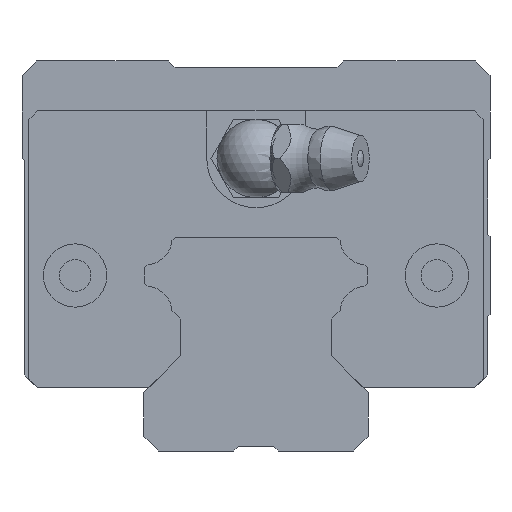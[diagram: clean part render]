
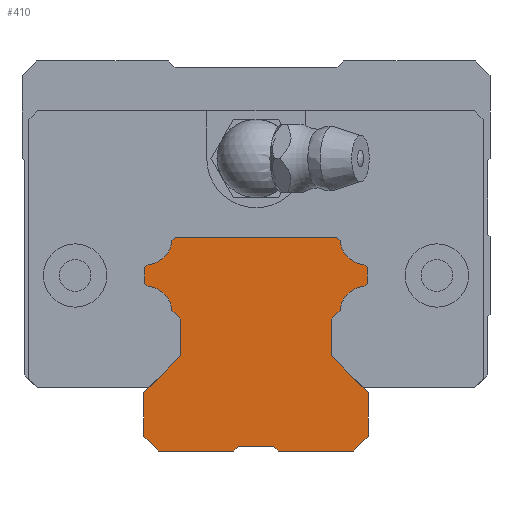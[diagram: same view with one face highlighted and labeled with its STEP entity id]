
A CAD part, front view. The second image highlights one B-rep face of the part: STEP entity #410.
In plain terms, the highlighted planar face has unit normal (0, -1, 0).
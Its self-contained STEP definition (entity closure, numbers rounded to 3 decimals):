
#273=CIRCLE('',#3328,2.65);
#275=CIRCLE('',#3334,2.65);
#286=CIRCLE('',#3363,2.65);
#288=CIRCLE('',#3369,2.65);
#410=ADVANCED_FACE('',(#719),#571,.T.);
#571=PLANE('',#3377);
#719=FACE_OUTER_BOUND('',#886,.T.);
#886=EDGE_LOOP('',(#1352,#1353,#1354,#1355,#1356,#1357,#1358,#1359,#1360,
#1361,#1362,#1363,#1364,#1365,#1366,#1367,#1368,#1369,#1370,#1371,#1372,
#1373,#1374,#1375,#1376,#1377,#1378,#1379));
#1352=ORIENTED_EDGE('',*,*,#2309,.F.);
#1353=ORIENTED_EDGE('',*,*,#2400,.F.);
#1354=ORIENTED_EDGE('',*,*,#2393,.T.);
#1355=ORIENTED_EDGE('',*,*,#2390,.F.);
#1356=ORIENTED_EDGE('',*,*,#2387,.T.);
#1357=ORIENTED_EDGE('',*,*,#2384,.T.);
#1358=ORIENTED_EDGE('',*,*,#2381,.F.);
#1359=ORIENTED_EDGE('',*,*,#2378,.F.);
#1360=ORIENTED_EDGE('',*,*,#2375,.F.);
#1361=ORIENTED_EDGE('',*,*,#2372,.F.);
#1362=ORIENTED_EDGE('',*,*,#2369,.F.);
#1363=ORIENTED_EDGE('',*,*,#2366,.T.);
#1364=ORIENTED_EDGE('',*,*,#2363,.T.);
#1365=ORIENTED_EDGE('',*,*,#2359,.F.);
#1366=ORIENTED_EDGE('',*,*,#2306,.T.);
#1367=ORIENTED_EDGE('',*,*,#2351,.T.);
#1368=ORIENTED_EDGE('',*,*,#2299,.F.);
#1369=ORIENTED_EDGE('',*,*,#2344,.T.);
#1370=ORIENTED_EDGE('',*,*,#2339,.F.);
#1371=ORIENTED_EDGE('',*,*,#2336,.F.);
#1372=ORIENTED_EDGE('',*,*,#2333,.T.);
#1373=ORIENTED_EDGE('',*,*,#2330,.T.);
#1374=ORIENTED_EDGE('',*,*,#2327,.T.);
#1375=ORIENTED_EDGE('',*,*,#2324,.F.);
#1376=ORIENTED_EDGE('',*,*,#2321,.T.);
#1377=ORIENTED_EDGE('',*,*,#2318,.F.);
#1378=ORIENTED_EDGE('',*,*,#2315,.F.);
#1379=ORIENTED_EDGE('',*,*,#2312,.F.);
#1970=VERTEX_POINT('',#4794);
#1971=VERTEX_POINT('',#4796);
#1972=VERTEX_POINT('',#4803);
#1975=VERTEX_POINT('',#4808);
#1978=VERTEX_POINT('',#4815);
#1979=VERTEX_POINT('',#4817);
#1981=VERTEX_POINT('',#4823);
#1983=VERTEX_POINT('',#4829);
#1985=VERTEX_POINT('',#4835);
#1987=VERTEX_POINT('',#4841);
#1989=VERTEX_POINT('',#4847);
#1991=VERTEX_POINT('',#4853);
#1993=VERTEX_POINT('',#4859);
#1995=VERTEX_POINT('',#4865);
#1997=VERTEX_POINT('',#4871);
#1999=VERTEX_POINT('',#4877);
#2004=VERTEX_POINT('',#4907);
#2007=VERTEX_POINT('',#4915);
#2009=VERTEX_POINT('',#4921);
#2011=VERTEX_POINT('',#4927);
#2013=VERTEX_POINT('',#4933);
#2015=VERTEX_POINT('',#4939);
#2017=VERTEX_POINT('',#4945);
#2019=VERTEX_POINT('',#4951);
#2021=VERTEX_POINT('',#4957);
#2023=VERTEX_POINT('',#4963);
#2025=VERTEX_POINT('',#4969);
#2027=VERTEX_POINT('',#4975);
#2299=EDGE_CURVE('',#1970,#1971,#2677,.T.);
#2306=EDGE_CURVE('',#1972,#1975,#2681,.T.);
#2309=EDGE_CURVE('',#1978,#1979,#2684,.T.);
#2312=EDGE_CURVE('',#1979,#1981,#273,.T.);
#2315=EDGE_CURVE('',#1981,#1983,#2688,.T.);
#2318=EDGE_CURVE('',#1983,#1985,#2691,.T.);
#2321=EDGE_CURVE('',#1987,#1985,#2694,.T.);
#2324=EDGE_CURVE('',#1987,#1989,#275,.T.);
#2327=EDGE_CURVE('',#1991,#1989,#2698,.T.);
#2330=EDGE_CURVE('',#1993,#1991,#2701,.T.);
#2333=EDGE_CURVE('',#1995,#1993,#2704,.T.);
#2336=EDGE_CURVE('',#1995,#1997,#2707,.T.);
#2339=EDGE_CURVE('',#1997,#1999,#2710,.T.);
#2344=EDGE_CURVE('',#1970,#1999,#2714,.T.);
#2351=EDGE_CURVE('',#1975,#1971,#2716,.T.);
#2359=EDGE_CURVE('',#1972,#2004,#2719,.T.);
#2363=EDGE_CURVE('',#2007,#2004,#2723,.T.);
#2366=EDGE_CURVE('',#2009,#2007,#2726,.T.);
#2369=EDGE_CURVE('',#2009,#2011,#2729,.T.);
#2372=EDGE_CURVE('',#2011,#2013,#2732,.T.);
#2375=EDGE_CURVE('',#2013,#2015,#2735,.T.);
#2378=EDGE_CURVE('',#2015,#2017,#286,.T.);
#2381=EDGE_CURVE('',#2017,#2019,#2739,.T.);
#2384=EDGE_CURVE('',#2021,#2019,#2742,.T.);
#2387=EDGE_CURVE('',#2023,#2021,#2745,.T.);
#2390=EDGE_CURVE('',#2023,#2025,#288,.T.);
#2393=EDGE_CURVE('',#2027,#2025,#2749,.T.);
#2400=EDGE_CURVE('',#2027,#1978,#2752,.T.);
#2677=LINE('',#4795,#2985);
#2681=LINE('',#4809,#2989);
#2684=LINE('',#4816,#2992);
#2688=LINE('',#4828,#2996);
#2691=LINE('',#4834,#2999);
#2694=LINE('',#4840,#3002);
#2698=LINE('',#4852,#3006);
#2701=LINE('',#4858,#3009);
#2704=LINE('',#4864,#3012);
#2707=LINE('',#4870,#3015);
#2710=LINE('',#4876,#3018);
#2714=LINE('',#4885,#3022);
#2716=LINE('',#4894,#3024);
#2719=LINE('',#4906,#3027);
#2723=LINE('',#4914,#3031);
#2726=LINE('',#4920,#3034);
#2729=LINE('',#4926,#3037);
#2732=LINE('',#4932,#3040);
#2735=LINE('',#4938,#3043);
#2739=LINE('',#4950,#3047);
#2742=LINE('',#4956,#3050);
#2745=LINE('',#4962,#3053);
#2749=LINE('',#4974,#3057);
#2752=LINE('',#4987,#3060);
#2985=VECTOR('',#3735,1.);
#2989=VECTOR('',#3749,1.);
#2992=VECTOR('',#3754,1.);
#2996=VECTOR('',#3766,1.);
#2999=VECTOR('',#3771,1.);
#3002=VECTOR('',#3776,1.);
#3006=VECTOR('',#3788,1.);
#3009=VECTOR('',#3793,1.);
#3012=VECTOR('',#3798,1.);
#3015=VECTOR('',#3803,1.);
#3018=VECTOR('',#3808,1.);
#3022=VECTOR('',#3816,1.);
#3024=VECTOR('',#3832,1.);
#3027=VECTOR('',#3849,1.);
#3031=VECTOR('',#3855,1.);
#3034=VECTOR('',#3860,1.);
#3037=VECTOR('',#3865,1.);
#3040=VECTOR('',#3870,1.);
#3043=VECTOR('',#3875,1.);
#3047=VECTOR('',#3887,1.);
#3050=VECTOR('',#3892,1.);
#3053=VECTOR('',#3897,1.);
#3057=VECTOR('',#3909,1.);
#3060=VECTOR('',#3922,1.);
#3328=AXIS2_PLACEMENT_3D('',#4822,#3760,#3761);
#3334=AXIS2_PLACEMENT_3D('',#4846,#3782,#3783);
#3363=AXIS2_PLACEMENT_3D('',#4944,#3881,#3882);
#3369=AXIS2_PLACEMENT_3D('',#4968,#3903,#3904);
#3377=AXIS2_PLACEMENT_3D('',#4989,#3925,#3926);
#3735=DIRECTION('',(-0.707,0.,0.707));
#3749=DIRECTION('',(0.707,0.,0.707));
#3754=DIRECTION('',(0.707,0.,-0.707));
#3760=DIRECTION('',(0.,-1.,0.));
#3761=DIRECTION('',(1.,0.,0.));
#3766=DIRECTION('',(0.707,0.,-0.707));
#3771=DIRECTION('',(0.,0.,-1.));
#3776=DIRECTION('',(0.707,0.,0.707));
#3782=DIRECTION('',(0.,-1.,0.));
#3783=DIRECTION('',(1.,0.,0.));
#3788=DIRECTION('',(0.707,0.,0.707));
#3793=DIRECTION('',(0.,0.,1.));
#3798=DIRECTION('',(-0.707,0.,0.707));
#3803=DIRECTION('',(0.,0.,-1.));
#3808=DIRECTION('',(-0.707,0.,-0.707));
#3816=DIRECTION('',(1.,0.,0.));
#3832=DIRECTION('',(1.,0.,0.));
#3849=DIRECTION('',(-1.,0.,0.));
#3855=DIRECTION('',(0.707,0.,-0.707));
#3860=DIRECTION('',(0.,0.,-1.));
#3865=DIRECTION('',(0.707,0.,0.707));
#3870=DIRECTION('',(0.,0.,1.));
#3875=DIRECTION('',(-0.707,0.,0.707));
#3881=DIRECTION('',(0.,-1.,0.));
#3882=DIRECTION('',(1.,0.,0.));
#3887=DIRECTION('',(-0.707,0.,0.707));
#3892=DIRECTION('',(0.,0.,-1.));
#3897=DIRECTION('',(-0.707,0.,-0.707));
#3903=DIRECTION('',(0.,-1.,0.));
#3904=DIRECTION('',(1.,0.,0.));
#3909=DIRECTION('',(-0.707,0.,-0.707));
#3922=DIRECTION('',(1.,0.,0.));
#3925=DIRECTION('',(0.,-1.,0.));
#3926=DIRECTION('',(0.,0.,-1.));
#4794=CARTESIAN_POINT('',(2.3,-220.,-110.));
#4795=CARTESIAN_POINT('',(2.3,-220.,-110.));
#4796=CARTESIAN_POINT('',(1.8,-220.,-109.5));
#4803=CARTESIAN_POINT('',(-2.3,-220.,-110.));
#4808=CARTESIAN_POINT('',(-1.8,-220.,-109.5));
#4809=CARTESIAN_POINT('',(-2.3,-220.,-110.));
#4815=CARTESIAN_POINT('',(8.271,-220.,-88.07));
#4816=CARTESIAN_POINT('',(8.271,-220.,-88.07));
#4817=CARTESIAN_POINT('',(8.627,-220.,-88.426));
#4822=CARTESIAN_POINT('',(11.27,-220.,-88.23));
#4823=CARTESIAN_POINT('',(11.074,-220.,-90.873));
#4828=CARTESIAN_POINT('',(11.074,-220.,-90.873));
#4829=CARTESIAN_POINT('',(11.43,-220.,-91.229));
#4834=CARTESIAN_POINT('',(11.43,-220.,-91.229));
#4835=CARTESIAN_POINT('',(11.43,-220.,-92.771));
#4840=CARTESIAN_POINT('',(11.074,-220.,-93.127));
#4841=CARTESIAN_POINT('',(11.074,-220.,-93.127));
#4846=CARTESIAN_POINT('',(11.27,-220.,-95.77));
#4847=CARTESIAN_POINT('',(8.627,-220.,-95.574));
#4852=CARTESIAN_POINT('',(7.73,-220.,-96.471));
#4853=CARTESIAN_POINT('',(7.73,-220.,-96.471));
#4858=CARTESIAN_POINT('',(7.73,-220.,-100.229));
#4859=CARTESIAN_POINT('',(7.73,-220.,-100.229));
#4864=CARTESIAN_POINT('',(11.5,-220.,-103.999));
#4865=CARTESIAN_POINT('',(11.5,-220.,-103.999));
#4870=CARTESIAN_POINT('',(11.5,-220.,-103.999));
#4871=CARTESIAN_POINT('',(11.5,-220.,-108.5));
#4876=CARTESIAN_POINT('',(11.5,-220.,-108.5));
#4877=CARTESIAN_POINT('',(10.,-220.,-110.));
#4885=CARTESIAN_POINT('',(2.3,-220.,-110.));
#4894=CARTESIAN_POINT('',(-1.8,-220.,-109.5));
#4906=CARTESIAN_POINT('',(-2.3,-220.,-110.));
#4907=CARTESIAN_POINT('',(-10.,-220.,-110.));
#4914=CARTESIAN_POINT('',(-11.5,-220.,-108.5));
#4915=CARTESIAN_POINT('',(-11.5,-220.,-108.5));
#4920=CARTESIAN_POINT('',(-11.5,-220.,-103.999));
#4921=CARTESIAN_POINT('',(-11.5,-220.,-103.999));
#4926=CARTESIAN_POINT('',(-11.5,-220.,-103.999));
#4927=CARTESIAN_POINT('',(-7.73,-220.,-100.229));
#4932=CARTESIAN_POINT('',(-7.73,-220.,-100.229));
#4933=CARTESIAN_POINT('',(-7.73,-220.,-96.471));
#4938=CARTESIAN_POINT('',(-7.73,-220.,-96.471));
#4939=CARTESIAN_POINT('',(-8.627,-220.,-95.574));
#4944=CARTESIAN_POINT('',(-11.27,-220.,-95.77));
#4945=CARTESIAN_POINT('',(-11.074,-220.,-93.127));
#4950=CARTESIAN_POINT('',(-11.074,-220.,-93.127));
#4951=CARTESIAN_POINT('',(-11.43,-220.,-92.771));
#4956=CARTESIAN_POINT('',(-11.43,-220.,-91.229));
#4957=CARTESIAN_POINT('',(-11.43,-220.,-91.229));
#4962=CARTESIAN_POINT('',(-11.074,-220.,-90.873));
#4963=CARTESIAN_POINT('',(-11.074,-220.,-90.873));
#4968=CARTESIAN_POINT('',(-11.27,-220.,-88.23));
#4969=CARTESIAN_POINT('',(-8.627,-220.,-88.426));
#4974=CARTESIAN_POINT('',(-8.271,-220.,-88.07));
#4975=CARTESIAN_POINT('',(-8.271,-220.,-88.07));
#4987=CARTESIAN_POINT('',(-8.271,-220.,-88.07));
#4989=CARTESIAN_POINT('',(11.27,-220.,-88.23));
